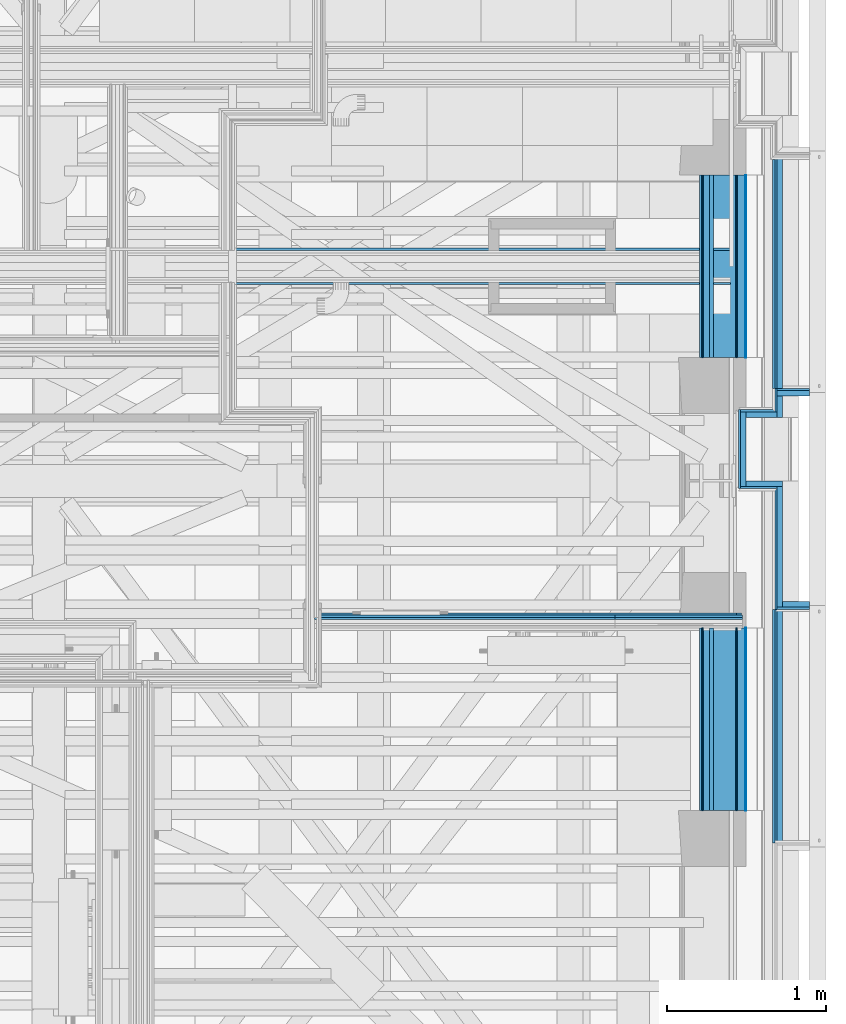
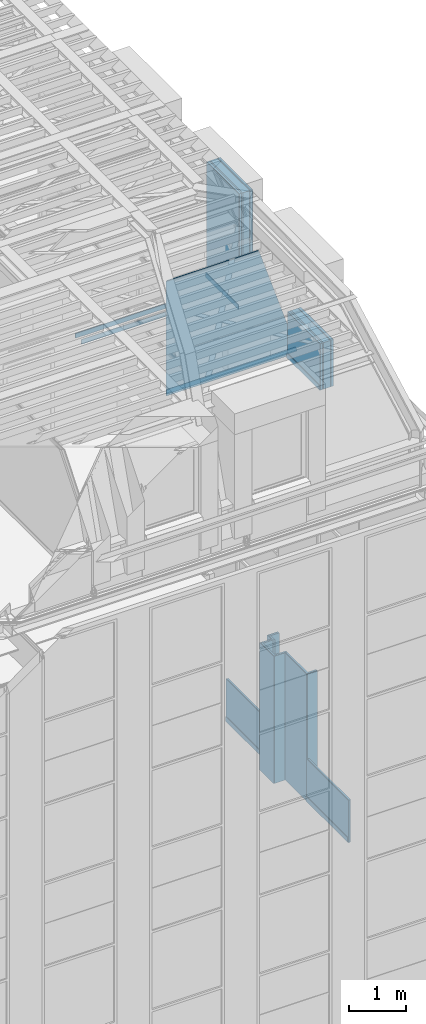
# One storey, part 55 of 183: 41 building element parts, 13 elements without a shape of their own.
"""IFC2X3 building model written with IfcOpenShell, lengths in metres."""

import ifcopenshell
import ifcopenshell.guid

model = None  # the IFC model being written
_history = None  # IfcOwnerHistory: only IFC2X3 demands one
_inside = {}  # id of a spatial element -> (the spatial element, [elements in it])
_under = {}  # id of a project, library or spatial element -> (it, [spatial elements below it])
_declared = {}  # id of a project -> (the project, [libraries it declares])
_typed = {}  # id of a type object -> (the type object, [elements of that type])
_made_of = {}  # id of a material, layer set ... -> (it, [elements and type objects made of it])


def new_model(schema):
    """Start an empty IFC model of exactly this schema.

    Asked for "IFC4X3", IfcOpenShell would pick the latest addendum, in which some entities
    have other attributes; the version numbers below select the first issue.
    IFC2X3 requires an IfcOwnerHistory on every rooted entity: one is made here for all.
    """
    global model, _history
    if schema == "IFC4X3":
        model = ifcopenshell.file(schema_version=(4, 3, 0, 0))
    else:
        model = ifcopenshell.file(schema=schema)
    _inside.clear()
    _under.clear()
    _declared.clear()
    _typed.clear()
    _made_of.clear()
    _history = None
    if model.schema == "IFC2X3":
        org = make("IfcOrganization", Name="unknown")
        user = make(
            "IfcPersonAndOrganization",
            ThePerson=make("IfcPerson", FamilyName="unknown"),
            TheOrganization=org,
        )
        app = make(
            "IfcApplication",
            ApplicationDeveloper=org,
            Version="unknown",
            ApplicationFullName="unknown",
            ApplicationIdentifier="unknown",
        )
        _history = make(
            "IfcOwnerHistory",
            OwningUser=user,
            OwningApplication=app,
            ChangeAction="ADDED",
            CreationDate=0,
        )
    return model


def make(cls, **values):
    """One entity of the class cls with the attributes given. An attribute that is None is left unset."""
    return model.create_entity(
        cls, **{name: value for name, value in values.items() if value is not None}
    )


def entity(cls, *values):
    """Any entity or typed value of the class cls, its attributes in the order of the schema. None: left unset."""
    e = model.create_entity(cls)
    for i, value in enumerate(values):
        if value is not None:
            e[i] = value
    return e


def rooted(cls, **values):
    """An entity with a GlobalId (a new one), such as an element, a storey or a relation."""
    return make(cls, GlobalId=ifcopenshell.guid.new(), OwnerHistory=_history, **values)


def si_unit(unit_type, name, prefix=None):
    """IfcSIUnit, for example si_unit("LENGTHUNIT", "METRE", prefix="MILLI")."""
    return make("IfcSIUnit", UnitType=unit_type, Prefix=prefix, Name=name)


def converted_unit(unit_type, name, factor, base, dimensions=None, offset=None):
    """IfcConversionBasedUnit, such as the inch: factor (a typed value) times the base unit."""
    return make(
        "IfcConversionBasedUnit"
        if offset is None
        else "IfcConversionBasedUnitWithOffset",
        ConversionOffset=offset,
        Dimensions=None
        if dimensions is None
        else entity("IfcDimensionalExponents", *dimensions),
        UnitType=unit_type,
        Name=name,
        ConversionFactor=make(
            "IfcMeasureWithUnit", ValueComponent=factor, UnitComponent=base
        ),
    )


def derived_unit(unit_type, elements):
    """IfcDerivedUnit: a product of units, each with its exponent."""
    return make(
        "IfcDerivedUnit",
        Elements=[
            make("IfcDerivedUnitElement", Unit=unit, Exponent=power)
            for unit, power in elements
        ],
        UnitType=unit_type,
    )


def money_unit(currency):
    """IfcMonetaryUnit."""
    return make("IfcMonetaryUnit", Currency=currency)


def assignment(units):
    """IfcUnitAssignment: the units of a project."""
    return None if units is None else make("IfcUnitAssignment", Units=units)


def point(xyz):
    """IfcCartesianPoint."""
    return None if xyz is None else make("IfcCartesianPoint", Coordinates=xyz)


def direction(xyz):
    """IfcDirection."""
    return None if xyz is None else make("IfcDirection", DirectionRatios=xyz)


def frame(location, z_axis=None, x_axis=None):
    """IfcAxis2Placement3D, a coordinate frame: its origin and axes. An axis left out is left unset."""
    return make(
        "IfcAxis2Placement3D",
        Location=point(location),
        Axis=direction(z_axis),
        RefDirection=direction(x_axis),
    )


def frame_2d(location, x_axis=None):
    """IfcAxis2Placement2D, a coordinate frame in the plane: its origin and x axis."""
    return make(
        "IfcAxis2Placement2D", Location=point(location), RefDirection=direction(x_axis)
    )


def origin_with_axes():
    """The frame at (0, 0, 0) with the z axis (0, 0, 1) and the x axis (1, 0, 0) written out."""
    return frame((0.0, 0.0, 0.0), z_axis=(0.0, 0.0, 1.0), x_axis=(1.0, 0.0, 0.0))


def place(relative_to, where):
    """IfcLocalPlacement: puts the frame where relative to a parent placement (None: the world)."""
    return make(
        "IfcLocalPlacement", PlacementRelTo=relative_to, RelativePlacement=where
    )


def context(
    kind, dimensions, precision=None, world=None, true_north=None, identifier=None
):
    """IfcGeometricRepresentationContext, for example the 3D "Model" context."""
    return make(
        "IfcGeometricRepresentationContext",
        ContextIdentifier=identifier,
        ContextType=kind,
        CoordinateSpaceDimension=dimensions,
        Precision=precision,
        WorldCoordinateSystem=world,
        TrueNorth=true_north,
    )


def subcontext(parent, identifier, kind, view, scale=None):
    """IfcGeometricRepresentationSubContext, for example "Body" below "Model"."""
    return make(
        "IfcGeometricRepresentationSubContext",
        ContextIdentifier=identifier,
        ContextType=kind,
        ParentContext=parent,
        TargetScale=scale,
        TargetView=view,
    )


def project(units=None, contexts=None):
    """IfcProject with its units and contexts."""
    return rooted(
        "IfcProject",
        Name="project",
        RepresentationContexts=contexts,
        UnitsInContext=assignment(units),
    )


def spatial(cls, under=None, at=None, **own):
    """A site, building, storey or space (cls), placed at a placement, below another one or the project."""
    s = rooted(cls, ObjectPlacement=at, **own)
    if under is not None:
        _under.setdefault(under.id(), (under, []))[1].append(s)
    return s


def profile(cls, at=None, kind="AREA", **sizes):
    """A parametric profile (cls). Its sizes go by their IFC names, for example OverallWidth=200.0."""
    return make(cls, ProfileType=kind, Position=at, **sizes)


def rectangle(**sizes):
    """IfcRectangleProfileDef."""
    return profile("IfcRectangleProfileDef", **sizes)


def extrude(swept, where, along, depth):
    """IfcExtrudedAreaSolid: the profile swept, set in the frame where, extruded along a direction by depth."""
    return make(
        "IfcExtrudedAreaSolid",
        SweptArea=swept,
        Position=where,
        ExtrudedDirection=direction(along),
        Depth=depth,
    )


def clip(a, b, op="DIFFERENCE"):
    """IfcBooleanClippingResult: the solid a cut by the half space b."""
    return make(
        "IfcBooleanClippingResult", Operator=op, FirstOperand=a, SecondOperand=b
    )


def halfspace(plane, agree):
    """IfcHalfSpaceSolid: all space on one side of the plane z = 0 of the frame plane."""
    return make(
        "IfcHalfSpaceSolid",
        BaseSurface=make("IfcPlane", Position=plane),
        AgreementFlag=agree,
    )


def shape(context_of_items, identifier, shape_type, items):
    """IfcShapeRepresentation: the items that make up one representation, for example the "Body"."""
    return make(
        "IfcShapeRepresentation",
        ContextOfItems=context_of_items,
        RepresentationIdentifier=identifier,
        RepresentationType=shape_type,
        Items=items,
    )


def material(Name=None, Category=None):
    """IfcMaterial."""
    return make("IfcMaterial", Name=Name, Category=Category)


def made_of(thing, what):
    """Note that an element or type object is made of a material, layer set ...; save() writes the relation."""
    if what is not None:
        _made_of.setdefault(what.id(), (what, []))[1].append(thing)
    return thing


def type_object(cls, material=None, **own):
    """A type object (cls), such as IfcWallType, which elements share."""
    return made_of(rooted(cls, **own), material)


def element(
    cls,
    number,
    at=None,
    inside=None,
    cuts=None,
    type_object=None,
    material=None,
    context=None,
    identifier="Body",
    shape_type=None,
    held_by="IfcProductDefinitionShape",
    body=None,
    shapes=None,
    **own,
):
    """One element of the class cls, such as IfcWall. Its Tag is "e" and its number.

    at: its placement. inside: the storey or other place that contains it. cuts: it is an
    opening in that element (IfcRelVoidsElement). A single representation is given by context,
    identifier, shape_type and body (its items); several are given by shapes. held_by: the class
    of the entity that holds the representations. save() writes the other relations.
    """
    e = rooted(cls, Tag="e%d" % number, ObjectPlacement=at, **own)
    if body is not None:
        shapes = [shape(context, identifier, shape_type, body)]
    if shapes is not None:
        e.Representation = make(held_by, Representations=shapes)
    if inside is not None:
        _inside.setdefault(inside.id(), (inside, []))[1].append(e)
    if cuts is not None:
        rooted(
            "IfcRelVoidsElement", RelatingBuildingElement=cuts, RelatedOpeningElement=e
        )
    if type_object is not None:
        _typed.setdefault(type_object.id(), (type_object, []))[1].append(e)
    return made_of(e, material)


def aggregate(whole, parts):
    """IfcRelAggregates: a whole, such as a stair, and the parts it consists of."""
    return rooted("IfcRelAggregates", RelatingObject=whole, RelatedObjects=parts)


def save(model, path):
    """Write the relations noted so far, then the file.

    IfcRelAggregates (storeys below a building ...), IfcRelContainedInSpatialStructure (elements
    in a storey), IfcRelDefinesByType, IfcRelAssociatesMaterial and IfcRelDeclares: one each for
    every whole, place, type object, material and project.
    """
    for whole, parts in _under.values():
        aggregate(whole, parts)
    for where, things in _inside.values():
        rooted(
            "IfcRelContainedInSpatialStructure",
            RelatedElements=things,
            RelatingStructure=where,
        )
    for kind, things in _typed.values():
        rooted("IfcRelDefinesByType", RelatedObjects=things, RelatingType=kind)
    for what, things in _made_of.values():
        rooted("IfcRelAssociatesMaterial", RelatedObjects=things, RelatingMaterial=what)
    for by, libraries in _declared.values():
        rooted("IfcRelDeclares", RelatingContext=by, RelatedDefinitions=libraries)
    model.write(path)


model = new_model("IFC2X3")

# Units and contexts
model_context = context("Model", 3, precision=1e-05, world=origin_with_axes(), true_north=direction((0.0, 1.0)))
body_context = subcontext(model_context, "Body", "Model", "MODEL_VIEW", scale=1.0)
ifc_project = project(units=[si_unit("LENGTHUNIT", "METRE"), si_unit("AREAUNIT", "SQUARE_METRE"), si_unit("VOLUMEUNIT", "CUBIC_METRE"), si_unit("ABSORBEDDOSEUNIT", "GRAY"), si_unit("AMOUNTOFSUBSTANCEUNIT", "MOLE"), si_unit("DOSEEQUIVALENTUNIT", "SIEVERT"), si_unit("ELECTRICCAPACITANCEUNIT", "FARAD"), si_unit("ELECTRICCHARGEUNIT", "COULOMB"), si_unit("ELECTRICCONDUCTANCEUNIT", "SIEMENS"), si_unit("ELECTRICCURRENTUNIT", "AMPERE"), si_unit("ELECTRICRESISTANCEUNIT", "OHM"), si_unit("ELECTRICVOLTAGEUNIT", "VOLT"), si_unit("ENERGYUNIT", "JOULE"), si_unit("FORCEUNIT", "NEWTON"), si_unit("FREQUENCYUNIT", "HERTZ"), si_unit("ILLUMINANCEUNIT", "LUX"), si_unit("INDUCTANCEUNIT", "HENRY"), si_unit("LUMINOUSFLUXUNIT", "LUMEN"), si_unit("LUMINOUSINTENSITYUNIT", "CANDELA"), si_unit("MAGNETICFLUXDENSITYUNIT", "TESLA"), si_unit("MAGNETICFLUXUNIT", "WEBER"), si_unit("MASSUNIT", "GRAM"), converted_unit("PLANEANGLEUNIT", "degree", entity("IfcReal", 0.0174532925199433), si_unit("PLANEANGLEUNIT", "RADIAN"), dimensions=[0, 0, 0, 0, 0, 0, 0]), si_unit("POWERUNIT", "WATT"), si_unit("PRESSUREUNIT", "PASCAL"), si_unit("RADIOACTIVITYUNIT", "BECQUEREL"), si_unit("SOLIDANGLEUNIT", "STERADIAN"), si_unit("THERMODYNAMICTEMPERATUREUNIT", "KELVIN"), si_unit("TIMEUNIT", "SECOND"), derived_unit("ACCELERATIONUNIT", [(si_unit("LENGTHUNIT", "METRE"), 1), (si_unit("TIMEUNIT", "SECOND"), -2)]), derived_unit("ANGULARVELOCITYUNIT", [(converted_unit("PLANEANGLEUNIT", "degree", entity("IfcReal", 0.0174532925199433), si_unit("PLANEANGLEUNIT", "RADIAN"), dimensions=[0, 0, 0, 0, 0, 0, 0]), 1), (si_unit("TIMEUNIT", "SECOND"), -1)]), derived_unit("CURVATUREUNIT", [(converted_unit("PLANEANGLEUNIT", "degree", entity("IfcReal", 0.0174532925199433), si_unit("PLANEANGLEUNIT", "RADIAN"), dimensions=[0, 0, 0, 0, 0, 0, 0]), 1), (si_unit("LENGTHUNIT", "METRE"), -1)]), derived_unit("DYNAMICVISCOSITYUNIT", [(si_unit("PRESSUREUNIT", "PASCAL"), 1), (si_unit("TIMEUNIT", "SECOND"), 1)]), derived_unit("HEATFLUXDENSITYUNIT", [(si_unit("POWERUNIT", "WATT"), 1), (si_unit("LENGTHUNIT", "METRE"), -2)]), derived_unit("HEATINGVALUEUNIT", [(si_unit("ENERGYUNIT", "JOULE"), 1), (si_unit("MASSUNIT", "GRAM"), -1)]), derived_unit("INTEGERCOUNTRATEUNIT", [(si_unit("TIMEUNIT", "SECOND"), -1)]), derived_unit("IONCONCENTRATIONUNIT", [(si_unit("MASSUNIT", "GRAM"), 1), (si_unit("VOLUMEUNIT", "CUBIC_METRE"), -1)]), derived_unit("ISOTHERMALMOISTURECAPACITYUNIT", [(si_unit("VOLUMEUNIT", "CUBIC_METRE"), 1), (si_unit("MASSUNIT", "GRAM"), -1)]), derived_unit("KINEMATICVISCOSITYUNIT", [(si_unit("AREAUNIT", "SQUARE_METRE"), 1), (si_unit("TIMEUNIT", "SECOND"), -1)]), derived_unit("LINEARFORCEUNIT", [(si_unit("FORCEUNIT", "NEWTON"), 1), (si_unit("LENGTHUNIT", "METRE"), -1)]), derived_unit("LINEARMOMENTUNIT", [(si_unit("FORCEUNIT", "NEWTON"), 1), (si_unit("LENGTHUNIT", "METRE"), -1)]), derived_unit("LINEARSTIFFNESSUNIT", [(si_unit("FORCEUNIT", "NEWTON"), 1), (si_unit("LENGTHUNIT", "METRE"), -1)]), derived_unit("LINEARVELOCITYUNIT", [(si_unit("LENGTHUNIT", "METRE"), 1), (si_unit("TIMEUNIT", "SECOND"), -1)]), derived_unit("LUMINOUSINTENSITYDISTRIBUTIONUNIT", [(si_unit("LUMINOUSINTENSITYUNIT", "CANDELA"), 1), (si_unit("LUMINOUSFLUXUNIT", "LUMEN"), -1)]), derived_unit("MASSDENSITYUNIT", [(si_unit("MASSUNIT", "GRAM"), 1), (si_unit("VOLUMEUNIT", "CUBIC_METRE"), -1)]), derived_unit("MASSFLOWRATEUNIT", [(si_unit("MASSUNIT", "GRAM"), 1), (si_unit("TIMEUNIT", "SECOND"), -1)]), derived_unit("MASSPERLENGTHUNIT", [(si_unit("MASSUNIT", "GRAM"), 1), (si_unit("LENGTHUNIT", "METRE"), -1)]), derived_unit("MODULUSOFELASTICITYUNIT", [(si_unit("FORCEUNIT", "NEWTON"), 1), (si_unit("AREAUNIT", "SQUARE_METRE"), -1)]), derived_unit("MODULUSOFLINEARSUBGRADEREACTIONUNIT", [(si_unit("FORCEUNIT", "NEWTON"), 1), (si_unit("LENGTHUNIT", "METRE"), -2)]), derived_unit("MODULUSOFROTATIONALSUBGRADEREACTIONUNIT", [(si_unit("FORCEUNIT", "NEWTON"), 1), (si_unit("LENGTHUNIT", "METRE"), 1)]), derived_unit("MODULUSOFSUBGRADEREACTIONUNIT", [(si_unit("FORCEUNIT", "NEWTON"), 1), (si_unit("VOLUMEUNIT", "CUBIC_METRE"), -1)]), derived_unit("MOISTUREDIFFUSIVITYUNIT", [(si_unit("VOLUMEUNIT", "CUBIC_METRE"), 1), (si_unit("TIMEUNIT", "SECOND"), -1)]), derived_unit("MOLECULARWEIGHTUNIT", [(si_unit("MASSUNIT", "GRAM"), 1), (si_unit("AMOUNTOFSUBSTANCEUNIT", "MOLE"), -1)]), derived_unit("PLANARFORCEUNIT", [(si_unit("FORCEUNIT", "NEWTON"), 1), (si_unit("LENGTHUNIT", "METRE"), -2)]), derived_unit("ROTATIONALFREQUENCYUNIT", [(si_unit("TIMEUNIT", "SECOND"), -1)]), derived_unit("ROTATIONALMASSUNIT", [(si_unit("MASSUNIT", "GRAM"), 1), (si_unit("LENGTHUNIT", "METRE"), 2)]), derived_unit("ROTATIONALSTIFFNESSUNIT", [(si_unit("FORCEUNIT", "NEWTON"), 1), (si_unit("LENGTHUNIT", "METRE"), 1), (converted_unit("PLANEANGLEUNIT", "degree", entity("IfcReal", 0.0174532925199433), si_unit("PLANEANGLEUNIT", "RADIAN"), dimensions=[0, 0, 0, 0, 0, 0, 0]), -1)]), derived_unit("SECTIONAREAINTEGRALUNIT", [(si_unit("LENGTHUNIT", "METRE"), 5)]), derived_unit("SECTIONMODULUSUNIT", [(si_unit("LENGTHUNIT", "METRE"), 3)]), derived_unit("SHEARMODULUSUNIT", [(si_unit("FORCEUNIT", "NEWTON"), 1), (si_unit("AREAUNIT", "SQUARE_METRE"), -1)]), derived_unit("SOUNDPOWERUNIT", [(si_unit("ENERGYUNIT", "JOULE"), 1), (si_unit("TIMEUNIT", "SECOND"), -1)]), derived_unit("SPECIFICHEATCAPACITYUNIT", [(si_unit("FORCEUNIT", "NEWTON"), 1), (si_unit("MASSUNIT", "GRAM"), -1), (si_unit("THERMODYNAMICTEMPERATUREUNIT", "KELVIN"), -1)]), derived_unit("TEMPERATUREGRADIENTUNIT", [(si_unit("THERMODYNAMICTEMPERATUREUNIT", "KELVIN"), 1), (si_unit("LENGTHUNIT", "METRE"), -1)]), derived_unit("THERMALADMITTANCEUNIT", [(si_unit("POWERUNIT", "WATT"), 1), (si_unit("AREAUNIT", "SQUARE_METRE"), -1), (si_unit("THERMODYNAMICTEMPERATUREUNIT", "KELVIN"), -1)]), derived_unit("THERMALCONDUCTANCEUNIT", [(si_unit("POWERUNIT", "WATT"), 1), (si_unit("LENGTHUNIT", "METRE"), -1), (si_unit("THERMODYNAMICTEMPERATUREUNIT", "KELVIN"), -1)]), derived_unit("THERMALEXPANSIONCOEFFICIENTUNIT", [(si_unit("THERMODYNAMICTEMPERATUREUNIT", "KELVIN"), -1)]), derived_unit("THERMALRESISTANCEUNIT", [(si_unit("AREAUNIT", "SQUARE_METRE"), 1), (si_unit("POWERUNIT", "WATT"), -1)]), derived_unit("THERMALTRANSMITTANCEUNIT", [(si_unit("POWERUNIT", "WATT"), 1), (si_unit("AREAUNIT", "SQUARE_METRE"), -1), (si_unit("THERMODYNAMICTEMPERATUREUNIT", "KELVIN"), -1)]), derived_unit("TORQUEUNIT", [(si_unit("FORCEUNIT", "NEWTON"), 1), (si_unit("LENGTHUNIT", "METRE"), 1)]), derived_unit("VAPORPERMEABILITYUNIT", [(si_unit("MASSUNIT", "GRAM"), 1), (si_unit("TIMEUNIT", "SECOND"), -1)]), derived_unit("VOLUMETRICFLOWRATEUNIT", [(si_unit("VOLUMEUNIT", "CUBIC_METRE"), 1), (si_unit("TIMEUNIT", "SECOND"), -1)]), derived_unit("WARPINGCONSTANTUNIT", [(si_unit("LENGTHUNIT", "METRE"), 6)]), derived_unit("WARPINGMOMENTUNIT", [(si_unit("FORCEUNIT", "NEWTON"), 1), (si_unit("LENGTHUNIT", "METRE"), 2)]), money_unit("GBP")], contexts=[model_context])

# Site, building, storey
site_placement = place(None, origin_with_axes())
site = spatial("IfcSite", under=ifc_project, at=site_placement, Name="Site", CompositionType="ELEMENT")
building_placement = place(site_placement, origin_with_axes())
building = spatial("IfcBuilding", under=site, at=building_placement, Name="Building01", CompositionType="ELEMENT")
storey_placement = place(building_placement, frame((0.0, 0.0, 5.15), z_axis=(0.0, 0.0, 1.0), x_axis=(1.0, 0.0, 0.0)))
storey = spatial("IfcBuildingStorey", under=building, at=storey_placement, Name="1F", CompositionType="ELEMENT", Elevation=5.15)

# Wall, building element parts
wall_type_1 = type_object("IfcWallType", Name="SHE_A-Walls_Type06d_ExternalWallInsulation_48mm", PredefinedType="NOTDEFINED")
wall_1_placement = place(storey_placement, frame((26.674, 5.29218, 0.0), z_axis=(0.0, 0.0, 1.0), x_axis=(0.0, -1.0, 0.0)))
wall_1 = element("IfcWall", 1, at=wall_1_placement, inside=storey, type_object=wall_type_1, Name="6D", ObjectType="SHE_A-Walls_Type06d_ExternalWallInsulation_48mm")
ifc_material_1 = material(Name="A_BSUK_Walls_Timber")
placement_1 = place(wall_1_placement, origin_with_axes())
building_element_part_1 = element("IfcBuildingElementPart", 2, at=placement_1, material=ifc_material_1, Name="1", context=body_context, shape_type="SweptSolid", body=[
    extrude(rectangle(XDim=1.47, YDim=0.015, at=frame_2d((0.735, -0.0195), x_axis=(-1.0, 0.0))), frame((0.0, 0.0, 0.015), z_axis=(0.0, 0.0, 1.0), x_axis=(1.0, 0.0, 0.0)), (0.0, 0.0, 1.0), 0.1),
])
ifc_material_2 = material(Name="A_BSUK_WallInternal_Finishes_Plasterboard")
building_element_part_2 = element("IfcBuildingElementPart", 3, at=placement_1, material=ifc_material_2, Name="2", context=body_context, shape_type="SweptSolid", body=[
    extrude(rectangle(XDim=1.47, YDim=0.013, at=frame_2d((0.735, -0.0055), x_axis=(-1.0, 0.0))), origin_with_axes(), (0.0, 0.0, 1.0), 0.915),
])
ifc_material_3 = material(Name="A_BSUK_Insulation")
building_element_part_3 = element("IfcBuildingElementPart", 4, at=placement_1, material=ifc_material_3, Name="3", context=body_context, shape_type="SweptSolid", body=[
    extrude(rectangle(XDim=1.47, YDim=0.036, at=frame_2d((0.735, 0.018), x_axis=(-1.0, 0.0))), origin_with_axes(), (0.0, 0.0, 1.0), 0.915),
])
aggregate(wall_1, [building_element_part_1, building_element_part_2, building_element_part_3])

wall_2_placement = place(storey_placement, frame((26.71, 5.34018, 0.0), z_axis=(0.0, 0.0, 1.0), x_axis=(1.0, 0.0, 0.0)))
wall_2 = element("IfcWall", 5, at=wall_2_placement, inside=storey, type_object=wall_type_1, Name="6D", ObjectType="SHE_A-Walls_Type06d_ExternalWallInsulation_48mm")
placement_2 = place(wall_2_placement, origin_with_axes())
building_element_part_4 = element("IfcBuildingElementPart", 6, at=placement_2, material=ifc_material_2, Name="2", context=body_context, shape_type="SweptSolid", body=[
    extrude(rectangle(XDim=0.013, YDim=0.205, at=frame_2d((0.0675, -0.0415), x_axis=(0.0, -1.0))), origin_with_axes(), (0.0, 0.0, 1.0), 2.74),
])
building_element_part_5 = element("IfcBuildingElementPart", 7, at=placement_2, material=ifc_material_3, Name="3", context=body_context, shape_type="SweptSolid", body=[
    extrude(rectangle(XDim=0.036, YDim=0.17, at=frame_2d((0.085, -0.018), x_axis=(0.0, -1.0))), origin_with_axes(), (0.0, 0.0, 1.0), 2.74),
])
aggregate(wall_2, [building_element_part_4, building_element_part_5])

wall_3_placement = place(storey_placement, frame((26.71, 5.30418, 0.0), z_axis=(0.0, 0.0, 1.0), x_axis=(0.0, 1.0, 0.0)))
wall_3 = element("IfcWall", 8, at=wall_3_placement, inside=storey, type_object=wall_type_1, Name="6D", ObjectType="SHE_A-Walls_Type06d_ExternalWallInsulation_48mm")
placement_3 = place(wall_3_placement, origin_with_axes())
building_element_part_6 = element("IfcBuildingElementPart", 9, at=placement_3, material=ifc_material_3, Name="1", context=body_context, shape_type="SweptSolid", body=[
    extrude(rectangle(XDim=0.75982, YDim=0.036, at=frame_2d((0.37991, 0.018), x_axis=(-1.0, 0.0))), origin_with_axes(), (0.0, 0.0, 1.0), 2.74),
])
building_element_part_7 = element("IfcBuildingElementPart", 10, at=placement_3, material=ifc_material_2, Name="2", context=body_context, shape_type="SweptSolid", body=[
    extrude(rectangle(XDim=0.75982, YDim=0.013, at=frame_2d((0.36791, 0.0415), x_axis=(-1.0, 0.0))), origin_with_axes(), (0.0, 0.0, 1.0), 2.74),
])
aggregate(wall_3, [building_element_part_6, building_element_part_7])

wall_4_placement = place(storey_placement, frame((26.71, 6.1, 0.0), z_axis=(0.0, 0.0, 1.0), x_axis=(-1.0, 0.0, 0.0)))
wall_4 = element("IfcWall", 11, at=wall_4_placement, inside=storey, type_object=wall_type_1, Name="6D", ObjectType="SHE_A-Walls_Type06d_ExternalWallInsulation_48mm")
placement_4 = place(wall_4_placement, origin_with_axes())
building_element_part_8 = element("IfcBuildingElementPart", 12, at=placement_4, material=ifc_material_3, Name="1", context=body_context, shape_type="SweptSolid", body=[
    extrude(rectangle(XDim=0.23, YDim=0.036, at=frame_2d((0.115, 0.018), x_axis=(-1.0, 0.0))), origin_with_axes(), (0.0, 0.0, 1.0), 2.74),
])
building_element_part_9 = element("IfcBuildingElementPart", 13, at=placement_4, material=ifc_material_2, Name="2", context=body_context, shape_type="SweptSolid", body=[
    extrude(rectangle(XDim=0.23, YDim=0.013, at=frame_2d((0.15, 0.0415), x_axis=(-1.0, 0.0))), origin_with_axes(), (0.0, 0.0, 1.0), 2.74),
])
aggregate(wall_4, [building_element_part_8, building_element_part_9])

wall_5_placement = place(storey_placement, frame((26.48, 6.064, 0.0), z_axis=(0.0, 0.0, 1.0), x_axis=(0.0, 1.0, 0.0)))
wall_5 = element("IfcWall", 14, at=wall_5_placement, inside=storey, type_object=wall_type_1, Name="6D", ObjectType="SHE_A-Walls_Type06d_ExternalWallInsulation_48mm")
placement_5 = place(wall_5_placement, origin_with_axes())
building_element_part_10 = element("IfcBuildingElementPart", 15, at=placement_5, material=ifc_material_3, Name="1", context=body_context, shape_type="SweptSolid", body=[
    extrude(rectangle(XDim=0.472, YDim=0.036, at=frame_2d((0.236, 0.018), x_axis=(-1.0, 0.0))), origin_with_axes(), (0.0, 0.0, 1.0), 2.74),
])
building_element_part_11 = element("IfcBuildingElementPart", 16, at=placement_5, material=ifc_material_2, Name="2", context=body_context, shape_type="SweptSolid", body=[
    extrude(rectangle(XDim=0.496, YDim=0.013, at=frame_2d((0.236, 0.0415), x_axis=(-1.0, 0.0))), origin_with_axes(), (0.0, 0.0, 1.0), 2.74),
])
aggregate(wall_5, [building_element_part_10, building_element_part_11])

wall_6_placement = place(storey_placement, frame((26.48, 6.5, 0.0), z_axis=(0.0, 0.0, 1.0), x_axis=(1.0, 0.0, 0.0)))
wall_6 = element("IfcWall", 17, at=wall_6_placement, inside=storey, type_object=wall_type_1, Name="6D", ObjectType="SHE_A-Walls_Type06d_ExternalWallInsulation_48mm")
placement_6 = place(wall_6_placement, origin_with_axes())
building_element_part_12 = element("IfcBuildingElementPart", 18, at=placement_6, material=ifc_material_3, Name="1", context=body_context, shape_type="SweptSolid", body=[
    extrude(rectangle(XDim=0.194, YDim=0.036, at=frame_2d((0.097, 0.018), x_axis=(-1.0, 0.0))), origin_with_axes(), (0.0, 0.0, 1.0), 2.74),
])
building_element_part_13 = element("IfcBuildingElementPart", 19, at=placement_6, material=ifc_material_2, Name="2", context=body_context, shape_type="SweptSolid", body=[
    extrude(rectangle(XDim=0.217, YDim=0.013, at=frame_2d((0.0735, 0.0415), x_axis=(-1.0, 0.0))), origin_with_axes(), (0.0, 0.0, 1.0), 2.74),
])
aggregate(wall_6, [building_element_part_12, building_element_part_13])

wall_7_placement = place(storey_placement, frame((26.71, 6.5, 0.0), z_axis=(0.0, 0.0, 1.0), x_axis=(0.0, 1.0, 0.0)))
wall_7 = element("IfcWall", 20, at=wall_7_placement, inside=storey, type_object=wall_type_1, Name="6D", ObjectType="SHE_A-Walls_Type06d_ExternalWallInsulation_48mm")
placement_7 = place(wall_7_placement, origin_with_axes())
building_element_part_14 = element("IfcBuildingElementPart", 21, at=placement_7, material=ifc_material_3, Name="1", context=body_context, shape_type="SweptSolid", body=[
    extrude(rectangle(XDim=0.134304, YDim=0.036, at=frame_2d((0.067152, 0.018), x_axis=(-1.0, 0.0))), origin_with_axes(), (0.0, 0.0, 1.0), 2.74),
])
building_element_part_15 = element("IfcBuildingElementPart", 22, at=placement_7, material=ifc_material_2, Name="2", context=body_context, shape_type="SweptSolid", body=[
    extrude(rectangle(XDim=0.147304, YDim=0.013, at=frame_2d((0.108652, 0.0415), x_axis=(-1.0, 0.0))), origin_with_axes(), (0.0, 0.0, 1.0), 2.74),
])
aggregate(wall_7, [building_element_part_14, building_element_part_15])

wall_8_placement = place(storey_placement, frame((26.674, 6.634304, 0.0), z_axis=(0.0, 0.0, 1.0), x_axis=(1.0, 0.0, 0.0)))
wall_8 = element("IfcWall", 23, at=wall_8_placement, inside=storey, type_object=wall_type_1, Name="6D", ObjectType="SHE_A-Walls_Type06d_ExternalWallInsulation_48mm")
placement_8 = place(wall_8_placement, origin_with_axes())
building_element_part_16 = element("IfcBuildingElementPart", 24, at=placement_8, material=ifc_material_3, Name="1", context=body_context, shape_type="SweptSolid", body=[
    extrude(rectangle(XDim=0.036, YDim=0.206, at=frame_2d((0.103, 0.018), x_axis=(0.0, -1.0))), origin_with_axes(), (0.0, 0.0, 1.0), 2.74),
])
building_element_part_17 = element("IfcBuildingElementPart", 25, at=placement_8, material=ifc_material_2, Name="2", context=body_context, shape_type="SweptSolid", body=[
    extrude(rectangle(XDim=0.013, YDim=0.205, at=frame_2d((0.1035, 0.0415), x_axis=(0.0, -1.0))), origin_with_axes(), (0.0, 0.0, 1.0), 2.74),
])
aggregate(wall_8, [building_element_part_16, building_element_part_17])

wall_9_placement = place(storey_placement, frame((26.674, 8.137304, 0.0), z_axis=(0.0, 0.0, 1.0), x_axis=(0.0, -1.0, 0.0)))
wall_9 = element("IfcWall", 26, at=wall_9_placement, inside=storey, type_object=wall_type_1, Name="6D", ObjectType="SHE_A-Walls_Type06d_ExternalWallInsulation_48mm")
placement_9 = place(wall_9_placement, origin_with_axes())
building_element_part_18 = element("IfcBuildingElementPart", 27, at=placement_9, material=ifc_material_1, Name="1", context=body_context, shape_type="SweptSolid", body=[
    extrude(rectangle(XDim=1.440022, YDim=0.015, at=frame_2d((0.734989, -0.0195), x_axis=(-1.0, 0.0))), frame((0.0, 0.0, 0.015), z_axis=(0.0, 0.0, 1.0), x_axis=(1.0, 0.0, 0.0)), (0.0, 0.0, 1.0), 0.1),
])
building_element_part_19 = element("IfcBuildingElementPart", 28, at=placement_9, material=ifc_material_2, Name="2", context=body_context, shape_type="SweptSolid", body=[
    extrude(rectangle(XDim=1.455, YDim=0.013, at=frame_2d((0.7275, -0.0055), x_axis=(-1.0, 0.0))), origin_with_axes(), (0.0, 0.0, 1.0), 0.915),
])
building_element_part_20 = element("IfcBuildingElementPart", 29, at=placement_9, material=ifc_material_3, Name="3", context=body_context, shape_type="SweptSolid", body=[
    extrude(rectangle(XDim=1.455, YDim=0.036, at=frame_2d((0.7275, 0.018), x_axis=(-1.0, 0.0))), origin_with_axes(), (0.0, 0.0, 1.0), 0.915),
])
aggregate(wall_9, [building_element_part_18, building_element_part_19, building_element_part_20])

wall_type_2 = type_object("IfcWallType", Name="SHE_A-Walls_Type01d_Partywall_200mm_twin", PredefinedType="NOTDEFINED")
wall_10_placement = place(storey_placement, frame((26.380061, 7.474915, 9.78), z_axis=(0.0, 0.0, 1.0), x_axis=(-1.0, 0.0, 0.0)))
wall_10 = element("IfcWall", 30, at=wall_10_placement, inside=storey, type_object=wall_type_2, Name="1D", ObjectType="SHE_A-Walls_Type01d_Partywall_200mm_twin")
placement_10 = place(wall_10_placement, origin_with_axes())
building_element_part_21 = element("IfcBuildingElementPart", 31, at=placement_10, material=ifc_material_1, Name="1", context=body_context, shape_type="SweptSolid", body=[
    extrude(rectangle(XDim=3.121239, YDim=0.015, at=frame_2d((1.56062, -0.0825), x_axis=(-1.0, 0.0))), frame((0.0, 0.0, 0.015), z_axis=(0.0, 0.0, 1.0), x_axis=(1.0, 0.0, 0.0)), (0.0, 0.0, 1.0), 0.1),
])
building_element_part_22 = element("IfcBuildingElementPart", 32, at=placement_10, material=ifc_material_1, Name="14", context=body_context, shape_type="SweptSolid", body=[
    extrude(rectangle(XDim=3.121239, YDim=0.015, at=frame_2d((1.56062, 0.1325), x_axis=(-1.0, 0.0))), frame((0.0, 0.0, 0.015), z_axis=(0.0, 0.0, 1.0), x_axis=(1.0, 0.0, 0.0)), (0.0, 0.0, 1.0), 0.1),
])
aggregate(wall_10, [building_element_part_21, building_element_part_22])

wall_type_3 = type_object("IfcWallType", Name="SHE_A-Walls_Type06e_ExternalWallPenthouse_280mm", PredefinedType="NOTDEFINED")
wall_11_placement = place(storey_placement, frame((26.415061, 5.174915, 9.78), z_axis=(0.0, 0.0, 1.0), x_axis=(0.0, -1.0, 0.0)))
wall_11 = element("IfcWall", 33, at=wall_11_placement, inside=storey, type_object=wall_type_3, Name="6E", ObjectType="SHE_A-Walls_Type06e_ExternalWallPenthouse_280mm")
placement_11 = place(wall_11_placement, origin_with_axes())
building_element_part_23 = element("IfcBuildingElementPart", 34, at=placement_11, material=ifc_material_1, Name="1", context=body_context, shape_type="SweptSolid", body=[
    extrude(rectangle(XDim=1.149951, YDim=0.015, at=frame_2d((0.574976, -0.2225), x_axis=(-1.0, 0.0))), frame((0.0, 0.0, 0.015), z_axis=(0.0, 0.0, 1.0), x_axis=(1.0, 0.0, 0.0)), (0.0, 0.0, 1.0), 0.1),
])
building_element_part_24 = element("IfcBuildingElementPart", 35, at=placement_11, material=ifc_material_2, Name="2", context=body_context, shape_type="SweptSolid", body=[
    extrude(rectangle(XDim=1.149951, YDim=0.01, at=frame_2d((0.574976, -0.21), x_axis=(-1.0, 0.0))), origin_with_axes(), (0.0, 0.0, 1.0), 1.0),
])
building_element_part_25 = element("IfcBuildingElementPart", 36, at=placement_11, material=ifc_material_3, Name="3", context=body_context, shape_type="SweptSolid", body=[
    extrude(rectangle(XDim=1.149951, YDim=0.04, at=frame_2d((0.574976, -0.185), x_axis=(-1.0, 0.0))), origin_with_axes(), (0.0, 0.0, 1.0), 1.0),
])
ifc_material_4 = material(Name="Air Cavity")
building_element_part_26 = element("IfcBuildingElementPart", 37, at=placement_11, material=ifc_material_4, Name="4", context=body_context, shape_type="SweptSolid", body=[
    extrude(rectangle(XDim=1.149951, YDim=0.025, at=frame_2d((0.574976, -0.1525), x_axis=(-1.0, 0.0))), origin_with_axes(), (0.0, 0.0, 1.0), 1.0),
])
building_element_part_27 = element("IfcBuildingElementPart", 38, at=placement_11, material=ifc_material_3, Name="5", context=body_context, shape_type="SweptSolid", body=[
    extrude(rectangle(XDim=1.149951, YDim=0.14, at=frame_2d((0.574976, -0.07), x_axis=(-1.0, 0.0))), origin_with_axes(), (0.0, 0.0, 1.0), 1.0),
])
building_element_part_28 = element("IfcBuildingElementPart", 39, at=placement_11, material=ifc_material_1, Name="6", context=body_context, shape_type="SweptSolid", body=[
    extrude(rectangle(XDim=1.149951, YDim=0.01, at=frame_2d((0.574976, 0.005), x_axis=(-1.0, 0.0))), origin_with_axes(), (0.0, 0.0, 1.0), 1.0),
])
building_element_part_29 = element("IfcBuildingElementPart", 40, at=placement_11, material=ifc_material_4, Name="7", context=body_context, shape_type="SweptSolid", body=[
    extrude(rectangle(XDim=1.149951, YDim=0.05, at=frame_2d((0.574976, 0.035), x_axis=(-1.0, 0.0))), origin_with_axes(), (0.0, 0.0, 1.0), 1.0),
])
ifc_material_5 = material(Name="A_BSUK_WallInternal_Finishes_Metal")
building_element_part_30 = element("IfcBuildingElementPart", 41, at=placement_11, material=ifc_material_5, Name="8", context=body_context, shape_type="SweptSolid", body=[
    extrude(rectangle(XDim=1.149951, YDim=0.005, at=frame_2d((0.574976, 0.0625), x_axis=(-1.0, 0.0))), origin_with_axes(), (0.0, 0.0, 1.0), 1.0),
])
aggregate(wall_11, [building_element_part_23, building_element_part_24, building_element_part_25, building_element_part_26, building_element_part_27, building_element_part_28, building_element_part_29, building_element_part_30])

wall_12_placement = place(storey_placement, frame((26.415061, 8.024915, 9.78), z_axis=(0.0, 0.0, 1.0), x_axis=(0.0, -1.0, 0.0)))
wall_12 = element("IfcWall", 42, at=wall_12_placement, inside=storey, type_object=wall_type_3, Name="6E", ObjectType="SHE_A-Walls_Type06e_ExternalWallPenthouse_280mm")
placement_12 = place(wall_12_placement, origin_with_axes())
building_element_part_31 = element("IfcBuildingElementPart", 43, at=placement_12, material=ifc_material_1, Name="1", context=body_context, shape_type="SweptSolid", body=[
    extrude(rectangle(XDim=1.149951, YDim=0.015, at=frame_2d((0.574976, -0.2225), x_axis=(-1.0, 0.0))), frame((0.0, 0.0, 0.015), z_axis=(0.0, 0.0, 1.0), x_axis=(1.0, 0.0, 0.0)), (0.0, 0.0, 1.0), 0.1),
])
building_element_part_32 = element("IfcBuildingElementPart", 44, at=placement_12, material=ifc_material_2, Name="2", context=body_context, shape_type="SweptSolid", body=[
    extrude(rectangle(XDim=1.149951, YDim=0.01, at=frame_2d((0.574976, -0.21), x_axis=(-1.0, 0.0))), origin_with_axes(), (0.0, 0.0, 1.0), 2.5),
])
building_element_part_33 = element("IfcBuildingElementPart", 45, at=placement_12, material=ifc_material_3, Name="3", context=body_context, shape_type="SweptSolid", body=[
    extrude(rectangle(XDim=1.149951, YDim=0.04, at=frame_2d((0.574976, -0.185), x_axis=(-1.0, 0.0))), origin_with_axes(), (0.0, 0.0, 1.0), 2.5),
])
building_element_part_34 = element("IfcBuildingElementPart", 46, at=placement_12, material=ifc_material_4, Name="4", context=body_context, shape_type="SweptSolid", body=[
    extrude(rectangle(XDim=1.149951, YDim=0.025, at=frame_2d((0.574976, -0.1525), x_axis=(-1.0, 0.0))), origin_with_axes(), (0.0, 0.0, 1.0), 2.5),
])
building_element_part_35 = element("IfcBuildingElementPart", 47, at=placement_12, material=ifc_material_3, Name="5", context=body_context, shape_type="SweptSolid", body=[
    extrude(rectangle(XDim=1.149951, YDim=0.14, at=frame_2d((0.574976, -0.07), x_axis=(-1.0, 0.0))), origin_with_axes(), (0.0, 0.0, 1.0), 2.5),
])
building_element_part_36 = element("IfcBuildingElementPart", 48, at=placement_12, material=ifc_material_1, Name="6", context=body_context, shape_type="SweptSolid", body=[
    extrude(rectangle(XDim=1.149951, YDim=0.01, at=frame_2d((0.574976, 0.005), x_axis=(-1.0, 0.0))), origin_with_axes(), (0.0, 0.0, 1.0), 2.5),
])
building_element_part_37 = element("IfcBuildingElementPart", 49, at=placement_12, material=ifc_material_4, Name="7", context=body_context, shape_type="SweptSolid", body=[
    extrude(rectangle(XDim=1.149951, YDim=0.05, at=frame_2d((0.574976, 0.035), x_axis=(-1.0, 0.0))), origin_with_axes(), (0.0, 0.0, 1.0), 2.5),
])
building_element_part_38 = element("IfcBuildingElementPart", 50, at=placement_12, material=ifc_material_5, Name="8", context=body_context, shape_type="SweptSolid", body=[
    extrude(rectangle(XDim=1.149951, YDim=0.005, at=frame_2d((0.574976, 0.0625), x_axis=(-1.0, 0.0))), origin_with_axes(), (0.0, 0.0, 1.0), 2.5),
])
aggregate(wall_12, [building_element_part_31, building_element_part_32, building_element_part_33, building_element_part_34, building_element_part_35, building_element_part_36, building_element_part_37, building_element_part_38])

wall_type_4 = type_object("IfcWallType", Name="SHE_A-Walls_Type05b_Partition_80mm", PredefinedType="NOTDEFINED")
wall_13_placement = place(storey_placement, frame((23.763, 5.201915, 9.78), z_axis=(0.0, 0.0, 1.0), x_axis=(1.0, 0.0, 0.0)))
wall_13 = element("IfcWall", 51, at=wall_13_placement, inside=storey, type_object=wall_type_4, Name="5B", ObjectType="SHE_A-Walls_Type05b_Partition_80mm")
placement_13 = place(wall_13_placement, origin_with_axes())
building_element_part_39 = element("IfcBuildingElementPart", 52, at=placement_13, material=ifc_material_4, Name="5", context=body_context, shape_type="Clipping", body=[
    clip(extrude(rectangle(XDim=2.693143, YDim=0.013, at=frame_2d((1.346572, 0.0315), x_axis=(-1.0, 0.0))), origin_with_axes(), (0.0, 0.0, 1.0), 2.468), halfspace(frame((2.435971, 0.0, 0.791495), z_axis=(-0.95105652, 0.0, -0.30901699), x_axis=(0.0, -1.0, 0.0)), True)),
])
building_element_part_40 = element("IfcBuildingElementPart", 53, at=placement_13, material=ifc_material_2, Name="6", context=body_context, shape_type="Clipping", body=[
    clip(extrude(rectangle(XDim=2.666143, YDim=0.015, at=frame_2d((1.360072, 0.0455), x_axis=(-1.0, 0.0))), origin_with_axes(), (0.0, 0.0, 1.0), 2.468), halfspace(frame((2.435971, 0.0, 0.791495), z_axis=(-0.95105652, 0.0, -0.30901699), x_axis=(0.0, -1.0, 0.0)), True)),
])
building_element_part_41 = element("IfcBuildingElementPart", 54, at=placement_13, material=ifc_material_1, Name="7", context=body_context, shape_type="Clipping", body=[
    clip(extrude(rectangle(XDim=2.66127, YDim=0.015, at=frame_2d((1.357635, 0.0605), x_axis=(-1.0, 0.0))), frame((0.0, 0.0, 0.015), z_axis=(0.0, 0.0, 1.0), x_axis=(1.0, 0.0, 0.0)), (0.0, 0.0, 1.0), 0.1), halfspace(frame((2.435971, 0.0, 0.791495), z_axis=(-0.95105652, 0.0, -0.30901699), x_axis=(0.0, -1.0, 0.0)), True)),
])
aggregate(wall_13, [building_element_part_39, building_element_part_40, building_element_part_41])

save(model, "model.ifc")
